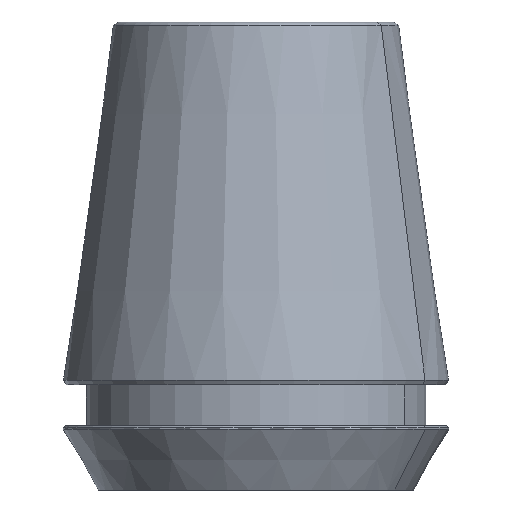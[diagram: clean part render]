
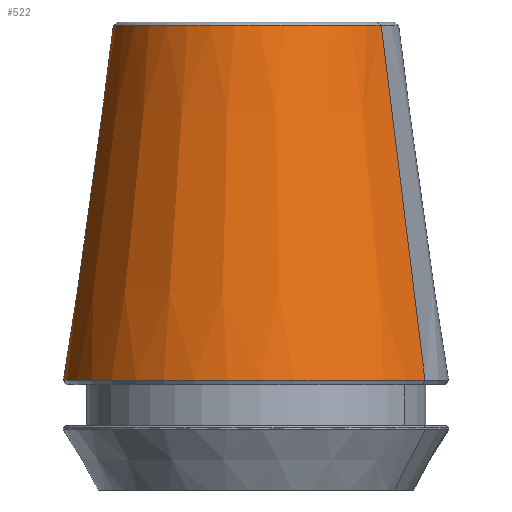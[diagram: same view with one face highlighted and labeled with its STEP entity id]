
A CAD part, front view. The second image highlights one B-rep face of the part: STEP entity #522.
In plain terms, the highlighted conical face has half-angle 8 degrees and reference radius 12.199 mm.
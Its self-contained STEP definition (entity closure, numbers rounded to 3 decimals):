
#426=AXIS2_PLACEMENT_3D('Circle Axis2P3D',#424,#425,$) ;
#455=AXIS2_PLACEMENT_3D('Circle Axis2P3D',#453,#454,$) ;
#514=AXIS2_PLACEMENT_3D('Cone Axis2P3D',#511,#512,#513) ;
#388=CARTESIAN_POINT('Vertex',(-10.706,5.849,-0.295)) ;
#390=CARTESIAN_POINT('Vertex',(10.706,-5.849,-0.295)) ;
#424=CARTESIAN_POINT('Axis2P3D Location',(0.,0.,-0.295)) ;
#450=CARTESIAN_POINT('Vertex',(14.443,-7.89,-30.6)) ;
#453=CARTESIAN_POINT('Axis2P3D Location',(0.,0.,-30.6)) ;
#457=CARTESIAN_POINT('Vertex',(-14.443,7.89,-30.6)) ;
#494=CARTESIAN_POINT('Line Origine',(-61073.296,33364.494,-495090.929)) ;
#499=CARTESIAN_POINT('Line Origine',(61073.296,-33364.494,-495090.929)) ;
#511=CARTESIAN_POINT('Axis2P3D Location',(0.,0.,-0.295)) ;
#425=DIRECTION('Axis2P3D Direction',(0.,0.,-1.)) ;
#454=DIRECTION('Axis2P3D Direction',(0.,0.,1.)) ;
#495=DIRECTION('Vector Direction',(-0.122,0.067,-0.99)) ;
#500=DIRECTION('Vector Direction',(0.122,-0.067,-0.99)) ;
#512=DIRECTION('Axis2P3D Direction',(0.,0.,-1.)) ;
#513=DIRECTION('Axis2P3D XDirection',(0.878,-0.479,0.)) ;
#496=VECTOR('Line Direction',#495,1.) ;
#501=VECTOR('Line Direction',#500,1.) ;
#517=ORIENTED_EDGE('',*,*,#459,.F.) ;
#518=ORIENTED_EDGE('',*,*,#503,.T.) ;
#519=ORIENTED_EDGE('',*,*,#428,.T.) ;
#520=ORIENTED_EDGE('',*,*,#498,.F.) ;
#522=ADVANCED_FACE('NOCUT',(#521),#515,.T.) ;
#427=CIRCLE('generated circle',#426,12.199) ;
#456=CIRCLE('generated circle',#455,16.458) ;
#515=CONICAL_SURFACE('Cone',#514,12.199,0.14) ;
#428=EDGE_CURVE('',#391,#389,#427,.T.) ;
#459=EDGE_CURVE('',#451,#458,#456,.F.) ;
#498=EDGE_CURVE('',#458,#389,#497,.F.) ;
#503=EDGE_CURVE('',#451,#391,#502,.F.) ;
#516=EDGE_LOOP('',(#517,#518,#519,#520)) ;
#521=FACE_OUTER_BOUND('',#516,.T.) ;
#497=LINE('Line',#494,#496) ;
#502=LINE('Line',#499,#501) ;
#389=VERTEX_POINT('',#388) ;
#391=VERTEX_POINT('',#390) ;
#451=VERTEX_POINT('',#450) ;
#458=VERTEX_POINT('',#457) ;
